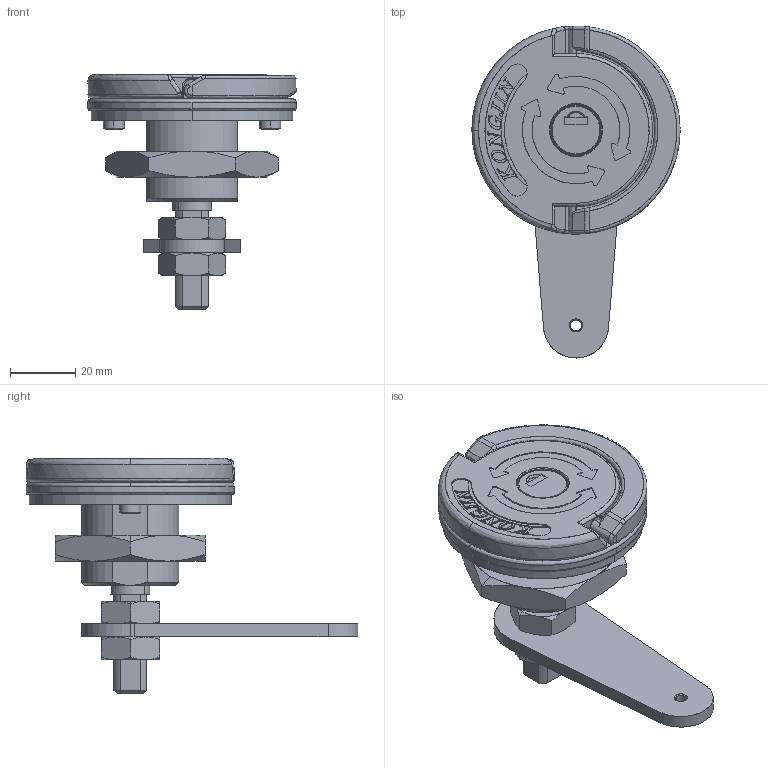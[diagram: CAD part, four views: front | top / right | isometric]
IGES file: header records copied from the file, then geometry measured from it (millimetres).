
Start section: SolidWorks IGES file using analytic representation for surfaces
Global section: file name: C:\Users\KJRND2\Desktop\億 ィ渦 (2)\KA-1217(IGS).IGS,15; native system: HSolidWorks 2011; preprocessor: SolidWorks 2011; author: KJRND2; date: 201102.155451; units: millimetre
Bounding box: 64 x 102 x 72.3 mm (x, y, z)
Surface area: 39753.5 mm2 (no closed solid volume)
Topology: 0 solids, 0 shells, 643 faces, 7808 edges, 7802 vertices
Faces by surface type: bspline 382, revolution 261
